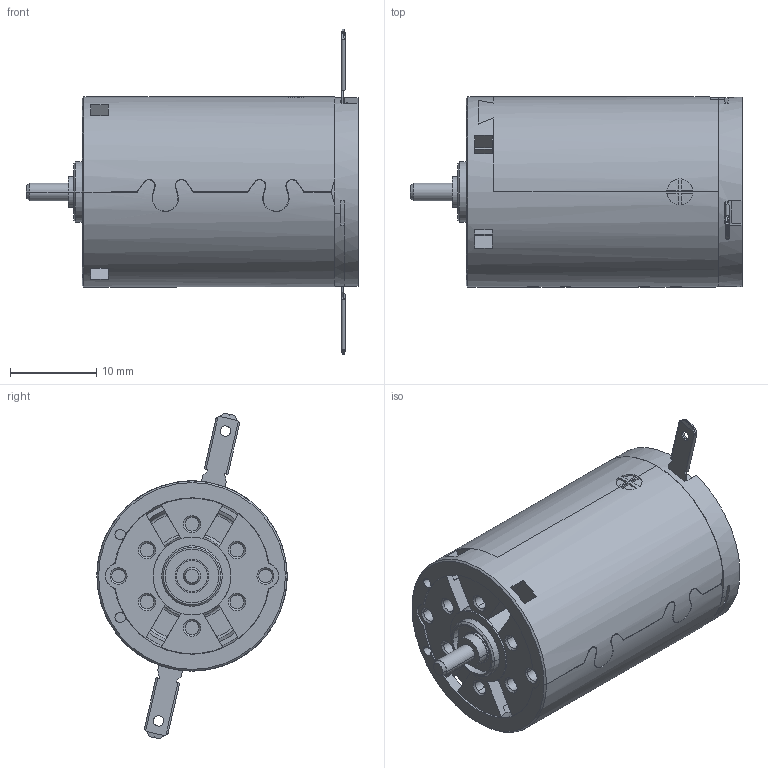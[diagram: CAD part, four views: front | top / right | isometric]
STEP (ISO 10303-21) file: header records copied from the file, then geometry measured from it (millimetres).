
FILE_DESCRIPTION((''),'2;1');
FILE_NAME('110117_AMAX22_EB_5W_SL_1WE','2016-10-14T',('mmagvisi'),(''),'CREO PARAMETRIC BY PTC INC, 2016050','CREO PARAMETRIC BY PTC INC, 2016050','');
FILE_SCHEMA(('CONFIG_CONTROL_DESIGN'));
Length unit declared in the file: millimetre
Products named in the file (1): 110117_AMAX22_EB_5W_SL_1WE
Bounding box: 38.4 x 22 x 37.69 mm (x, y, z)
Volume: 11852.3 mm3; surface area: 3813.3 mm2
Topology: 1 solids, 3 shells, 448 faces, 1168 edges, 738 vertices
Faces by surface type: plane 307, cylinder 93, cone 38, torus 10
Entity records: 20418 total; most frequent: CARTESIAN_POINT 3498, ORIENTED_EDGE 2336, DIRECTION 2217, PRESENTATION_STYLE_ASSIGNMENT 1457, STYLED_ITEM 1169, CURVE_STYLE 1168, EDGE_CURVE 1168, VECTOR 771
